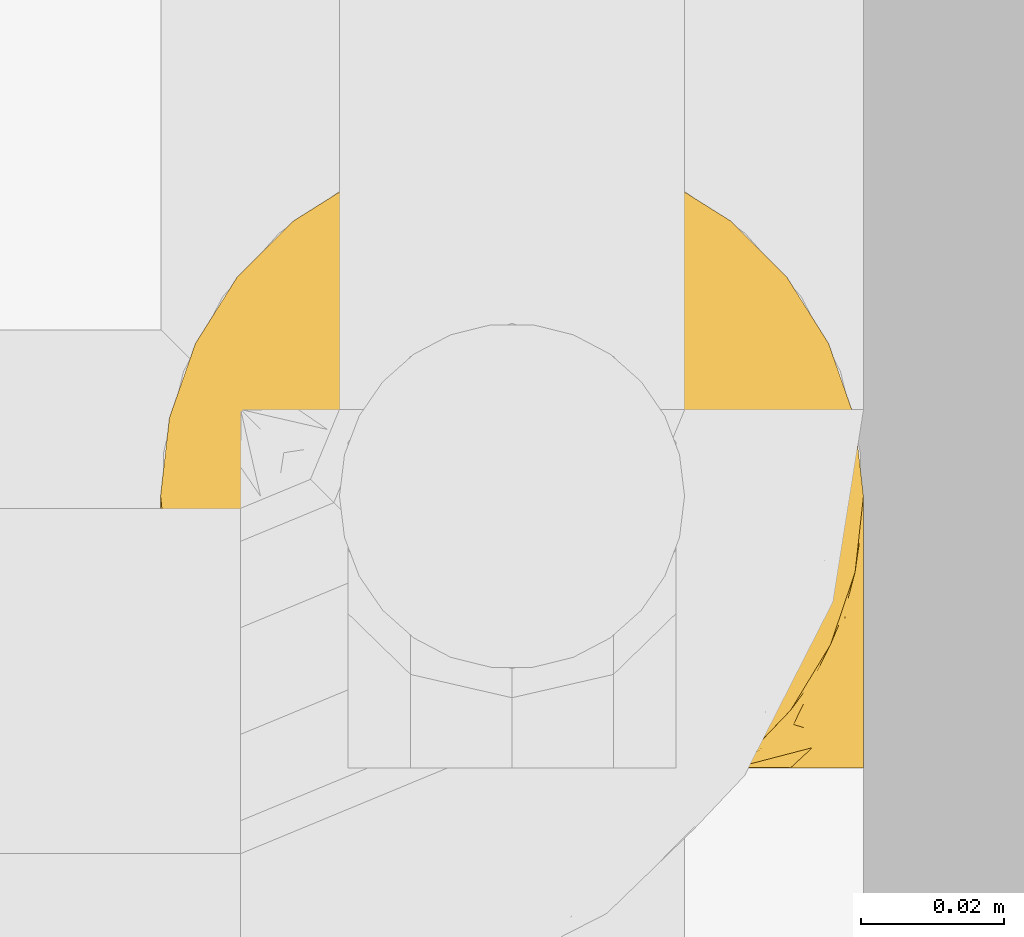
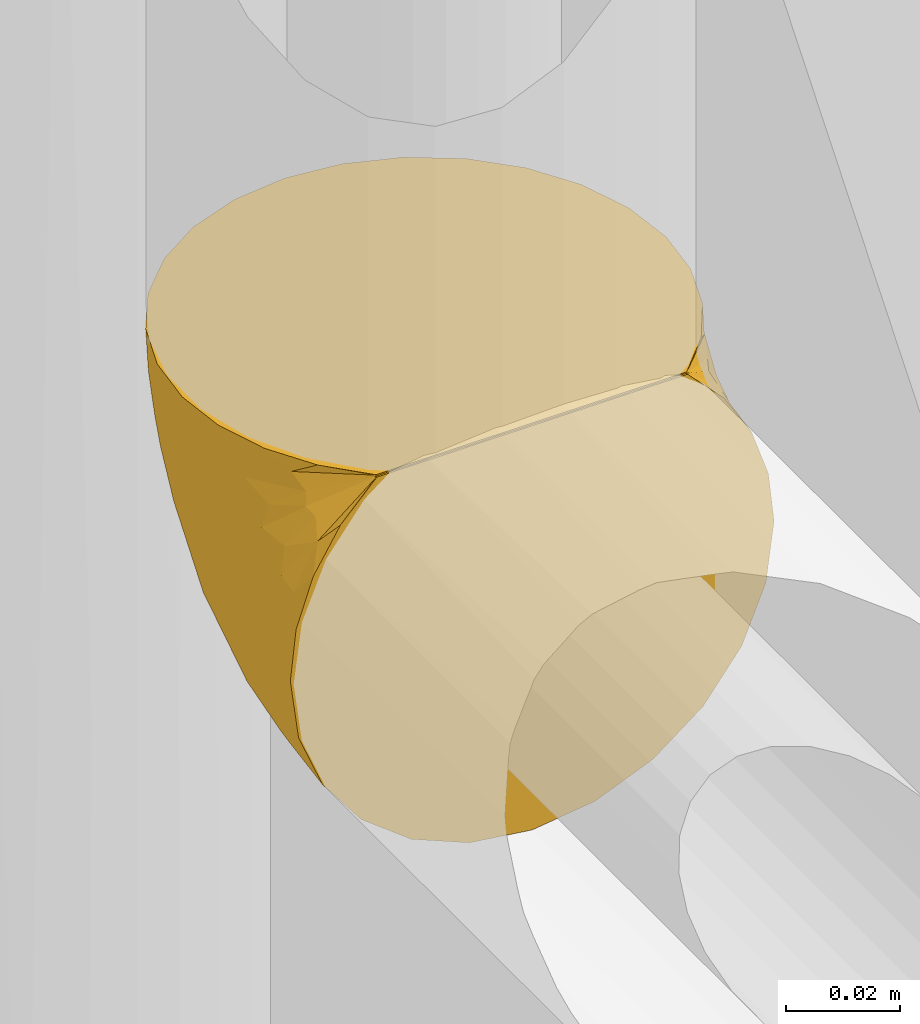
# One storey, part 63 of 94: 1 covering.
"""IFC2X3 building model written with IfcOpenShell, lengths in millimetres."""

from ifc_helpers import new_model, entity, si_unit, converted_unit, derived_unit, direction, frame, origin, place, context, subcontext, project, spatial, faceted_brep, material, element, save


model = new_model("IFC2X3")

# Units and contexts
model_context = context("Model", 3, precision=0.01, world=origin(), true_north=direction((6.123031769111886e-17, 1.0)))
body_context = subcontext(model_context, "Body", "Model", "MODEL_VIEW")
ifc_project = project(units=[si_unit("LENGTHUNIT", "METRE", prefix="MILLI"), si_unit("AREAUNIT", "SQUARE_METRE"), si_unit("VOLUMEUNIT", "CUBIC_METRE"), converted_unit("PLANEANGLEUNIT", "DEGREE", entity("IfcRatioMeasure", 0.017453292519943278), si_unit("PLANEANGLEUNIT", "RADIAN"), dimensions=[0, 0, 0, 0, 0, 0, 0]), si_unit("MASSUNIT", "GRAM", prefix="KILO"), derived_unit("MASSDENSITYUNIT", [(si_unit("MASSUNIT", "GRAM", prefix="KILO"), 1), (si_unit("LENGTHUNIT", "METRE"), -3)]), derived_unit("IONCONCENTRATIONUNIT", [(si_unit("MASSUNIT", "GRAM", prefix="KILO"), 1), (si_unit("LENGTHUNIT", "METRE"), -3)]), derived_unit("MOMENTOFINERTIAUNIT", [(si_unit("LENGTHUNIT", "METRE"), 4)]), si_unit("TIMEUNIT", "SECOND"), si_unit("FREQUENCYUNIT", "HERTZ"), si_unit("THERMODYNAMICTEMPERATUREUNIT", "DEGREE_CELSIUS"), derived_unit("THERMALTRANSMITTANCEUNIT", [(si_unit("MASSUNIT", "GRAM", prefix="KILO"), 1), (si_unit("THERMODYNAMICTEMPERATUREUNIT", "KELVIN"), -1), (si_unit("TIMEUNIT", "SECOND"), -3)]), derived_unit("THERMALCONDUCTANCEUNIT", [(si_unit("MASSUNIT", "GRAM", prefix="KILO"), 1), (si_unit("THERMODYNAMICTEMPERATUREUNIT", "KELVIN"), -1), (si_unit("TIMEUNIT", "SECOND"), -3), (si_unit("LENGTHUNIT", "METRE"), 1)]), derived_unit("VOLUMETRICFLOWRATEUNIT", [(si_unit("LENGTHUNIT", "METRE"), 3), (si_unit("TIMEUNIT", "SECOND"), -1)]), derived_unit("MASSFLOWRATEUNIT", [(si_unit("MASSUNIT", "GRAM", prefix="KILO"), 1), (si_unit("TIMEUNIT", "SECOND"), -1)]), derived_unit("ROTATIONALFREQUENCYUNIT", [(si_unit("TIMEUNIT", "SECOND"), -1)]), si_unit("ELECTRICCURRENTUNIT", "AMPERE"), si_unit("ELECTRICVOLTAGEUNIT", "VOLT"), si_unit("POWERUNIT", "WATT"), si_unit("FORCEUNIT", "NEWTON", prefix="KILO"), si_unit("ILLUMINANCEUNIT", "LUX"), si_unit("LUMINOUSFLUXUNIT", "LUMEN"), si_unit("LUMINOUSINTENSITYUNIT", "CANDELA"), derived_unit("USERDEFINED", [(si_unit("MASSUNIT", "GRAM", prefix="KILO"), -1), (si_unit("LENGTHUNIT", "METRE"), -2), (si_unit("TIMEUNIT", "SECOND"), 3), (si_unit("LUMINOUSFLUXUNIT", "LUMEN"), 1)]), derived_unit("USERDEFINED", [(si_unit("MASSUNIT", "GRAM", prefix="KILO"), 1), (si_unit("TIMEUNIT", "SECOND"), -3), (si_unit("LENGTHUNIT", "METRE"), 3), (si_unit("ELECTRICCURRENTUNIT", "AMPERE"), -2)]), derived_unit("SOUNDPOWERUNIT", [(si_unit("MASSUNIT", "GRAM", prefix="KILO"), 1), (si_unit("TIMEUNIT", "SECOND"), -3), (si_unit("LENGTHUNIT", "METRE"), 2)]), derived_unit("SOUNDPRESSUREUNIT", [(si_unit("MASSUNIT", "GRAM", prefix="KILO"), 1), (si_unit("LENGTHUNIT", "METRE"), -1), (si_unit("TIMEUNIT", "SECOND"), -2)]), derived_unit("LINEARVELOCITYUNIT", [(si_unit("LENGTHUNIT", "METRE"), 1), (si_unit("TIMEUNIT", "SECOND"), -1)]), si_unit("PRESSUREUNIT", "PASCAL"), derived_unit("USERDEFINED", [(si_unit("MASSUNIT", "GRAM", prefix="KILO"), 1), (si_unit("LENGTHUNIT", "METRE"), -2), (si_unit("TIMEUNIT", "SECOND"), -2)]), derived_unit("LINEARFORCEUNIT", [(si_unit("MASSUNIT", "GRAM", prefix="KILO"), 1), (si_unit("TIMEUNIT", "SECOND"), -2)]), derived_unit("PLANARFORCEUNIT", [(si_unit("MASSUNIT", "GRAM", prefix="KILO"), 1), (si_unit("LENGTHUNIT", "METRE"), -1), (si_unit("TIMEUNIT", "SECOND"), -2)]), derived_unit("SPECIFICHEATCAPACITYUNIT", [(si_unit("THERMODYNAMICTEMPERATUREUNIT", "KELVIN"), -1), (si_unit("LENGTHUNIT", "METRE"), 2), (si_unit("TIMEUNIT", "SECOND"), -2)]), derived_unit("HEATINGVALUEUNIT", [(si_unit("LENGTHUNIT", "METRE"), 2), (si_unit("TIMEUNIT", "SECOND"), -2)]), derived_unit("VAPORPERMEABILITYUNIT", [(si_unit("LENGTHUNIT", "METRE"), -1), (si_unit("TIMEUNIT", "SECOND"), 1)]), derived_unit("DYNAMICVISCOSITYUNIT", [(si_unit("MASSUNIT", "GRAM", prefix="KILO"), 1), (si_unit("TIMEUNIT", "SECOND"), -1), (si_unit("LENGTHUNIT", "METRE"), -1)]), derived_unit("THERMALEXPANSIONCOEFFICIENTUNIT", [(si_unit("THERMODYNAMICTEMPERATUREUNIT", "KELVIN"), -1)]), derived_unit("MODULUSOFELASTICITYUNIT", [(si_unit("MASSUNIT", "GRAM", prefix="KILO"), 1), (si_unit("LENGTHUNIT", "METRE"), -1), (si_unit("TIMEUNIT", "SECOND"), -2)]), derived_unit("ISOTHERMALMOISTURECAPACITYUNIT", [(si_unit("LENGTHUNIT", "METRE"), 3), (si_unit("MASSUNIT", "GRAM", prefix="KILO"), -1)]), derived_unit("MOISTUREDIFFUSIVITYUNIT", [(si_unit("TIMEUNIT", "SECOND"), -1), (si_unit("LENGTHUNIT", "METRE"), 2)])], contexts=[model_context])

# Site, building, storey
site_placement = place(None, origin())
site = spatial("IfcSite", under=ifc_project, at=site_placement, Name="Default", CompositionType="ELEMENT")
building_placement = place(site_placement, origin())
building = spatial("IfcBuilding", under=site, at=building_placement, CompositionType="ELEMENT")
storey_placement = place(building_placement, origin())
storey = spatial("IfcBuildingStorey", under=building, at=storey_placement, Name="Niveau 0", CompositionType="ELEMENT", Elevation=0.0)

# Covering
ifc_material = material(Name="Isolation - Laine minérale")
covering_placement = place(storey_placement, frame((-5839.649974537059, 9837.250352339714, 1313.154727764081)))
element("IfcCovering", 1, at=covering_placement, inside=storey, material=ifc_material, Name="Isolation des canalisations:Laine minérale", ObjectType="Isolation des canalisations:Laine minérale", PredefinedType="INSULATION", context=body_context, shape_type="Brep", body=[
    faceted_brep([(95.02415814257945, 60.928409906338, 88.74527223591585), (89.1663101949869, 70.24729243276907, 88.74527223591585), (81.38263886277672, 78.02799613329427, 88.74527223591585), (72.06354573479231, 83.88131648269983, 88.74527223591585), (61.67593083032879, 87.51440414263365, 88.74527223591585), (50.74527223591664, 88.74527223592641, 88.74527223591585), (39.802903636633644, 87.51173151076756, 88.74527223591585), (29.412134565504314, 83.87415814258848, 88.74527223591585), (20.093252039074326, 78.0163101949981, 88.74527223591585), (12.312548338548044, 70.23263886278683, 88.74527223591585), (6.459227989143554, 60.91354573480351, 88.74527223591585), (2.8261403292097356, 50.52593083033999, 88.74527223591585), (1.5952722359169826, 39.59527223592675, 88.74527223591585), (2.765001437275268, 28.936186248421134, 88.74527223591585), (6.216868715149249, 18.787971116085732, 88.74527223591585), (11.785042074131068, 9.631578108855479, 88.74527223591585), (19.19437336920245, 1.908891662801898, 88.74527223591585), (21.638642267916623, 1.908891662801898, 88.74527223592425), (23.415694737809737, 1.908891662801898, 88.74527223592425), (25.192747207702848, 1.908891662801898, 88.74527223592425), (26.69234066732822, 1.908891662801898, 88.74527223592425), (28.191934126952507, 1.908891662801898, 88.74527223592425), (31.19112104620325, 1.908891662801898, 88.74527223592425), (34.19030796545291, 1.908891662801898, 88.74527223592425), (37.18949488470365, 1.908891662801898, 88.74527223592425), (40.18868180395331, 1.908891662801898, 88.74527223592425), (41.688275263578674, 1.908891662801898, 88.74527223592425), (43.18786872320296, 1.908891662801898, 88.74527223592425), (45.63213762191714, 1.908891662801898, 88.74527223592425), (48.07640652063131, 1.908891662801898, 88.74527223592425), (50.52067541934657, 1.908891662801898, 88.74527223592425), (52.96494431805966, 1.908891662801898, 88.74527223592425), (55.40921321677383, 1.908891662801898, 88.74527223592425), (57.853482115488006, 1.908891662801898, 88.74527223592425), (60.297751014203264, 1.908891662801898, 88.74527223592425), (62.742019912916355, 1.908891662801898, 88.74527223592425), (65.18628881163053, 1.908891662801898, 88.74527223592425), (67.6305577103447, 1.908891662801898, 88.74527223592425), (70.07482660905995, 1.908891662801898, 88.74527223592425), (72.51909550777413, 1.908891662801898, 88.74527223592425), (74.96336440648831, 1.908891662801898, 88.74527223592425), (77.40763330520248, 1.908891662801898, 88.74527223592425), (79.85190220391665, 1.908891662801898, 88.74527223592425), (82.29617110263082, 1.908891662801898, 88.74527223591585), (89.71827412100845, 9.648191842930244, 88.74527223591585), (95.2836857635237, 18.809406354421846, 88.74527223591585), (98.73008326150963, 28.95664399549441, 88.74527223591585), (99.8952722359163, 39.59527223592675, 88.74527223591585), (98.66173151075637, 50.53764083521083, 88.74527223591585), (11.777056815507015, 1.5952722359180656, 80.69858068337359), (6.211862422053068, 1.5952722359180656, 71.54185633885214), (2.763298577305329, 1.5952722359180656, 61.39669016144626), (1.5952722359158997, 1.5952722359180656, 50.74527223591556), (3.2700178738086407, 1.5952722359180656, 38.02431616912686), (8.180123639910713, 1.5952722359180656, 26.17027223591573), (15.990973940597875, 1.5952722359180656, 15.990973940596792), (26.17027223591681, 1.5952722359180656, 8.180123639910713), (38.0243161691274, 1.5952722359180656, 3.2700178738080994), (50.74527223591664, 1.5952722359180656, 1.5952722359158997), (63.46622830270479, 1.5952722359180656, 3.2700178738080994), (75.32027223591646, 1.5952722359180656, 8.180123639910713), (85.4995705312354, 1.5952722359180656, 15.990973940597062), (93.31042083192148, 1.5952722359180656, 26.17027223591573), (98.22052659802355, 1.5952722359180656, 38.02431616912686), (99.8952722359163, 1.5952722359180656, 50.74527223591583), (98.72724589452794, 1.5952722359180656, 61.39669016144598), (95.2786820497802, 1.5952722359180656, 71.54185633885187), (89.71348765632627, 1.5952722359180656, 80.69858068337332), (82.29617110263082, 1.5952722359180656, 88.43165280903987), (79.85190220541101, 1.5952722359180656, 88.43165280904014), (78.35230874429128, 1.5952722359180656, 88.43165280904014), (76.3803775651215, 1.5952722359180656, 88.43165280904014), (74.40844638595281, 1.5952722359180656, 88.43165280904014), (72.43651520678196, 1.5952722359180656, 88.43165280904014), (70.46458402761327, 1.5952722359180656, 88.43165280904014), (68.4926528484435, 1.5952722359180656, 88.43165280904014), (66.52072166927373, 1.5952722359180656, 88.43165280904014), (64.54879049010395, 1.5952722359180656, 88.43165280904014), (62.57685931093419, 1.5952722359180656, 88.43165280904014), (60.60492813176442, 1.5952722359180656, 88.43165280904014), (58.632996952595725, 1.5952722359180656, 88.43165280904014), (56.66106577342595, 1.5952722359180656, 88.43165280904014), (54.6891345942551, 1.5952722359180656, 88.43165280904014), (52.71720341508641, 1.5952722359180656, 88.43165280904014), (50.74527223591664, 1.5952722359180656, 88.43165280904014), (48.773341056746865, 1.5952722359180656, 88.43165280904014), (46.80140987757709, 1.5952722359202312, 88.43165280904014), (44.82947869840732, 1.5952722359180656, 88.43165280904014), (42.85754751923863, 1.5952722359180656, 88.43165280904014), (40.88561634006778, 1.5952722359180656, 88.43165280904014), (38.913685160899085, 1.5952722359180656, 88.43165280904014), (36.94175398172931, 1.5952722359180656, 88.43165280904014), (34.96982280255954, 1.5952722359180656, 88.43165280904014), (31.970635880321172, 1.5952722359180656, 88.43165280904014), (28.971448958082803, 1.5952722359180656, 88.43165280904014), (26.5271800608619, 1.5952722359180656, 88.43165280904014), (24.082911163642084, 1.5952722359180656, 88.43165280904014), (21.638642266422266, 1.5952722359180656, 88.43165280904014), (19.19437336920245, 1.5952722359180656, 88.43165280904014), (53.7533397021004, 1.8096432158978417, 88.51635690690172), (51.832765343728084, 1.818436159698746, 88.52492022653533), (61.47290163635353, 1.8193226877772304, 88.52582169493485), (63.56282540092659, 1.8127644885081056, 88.51932032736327), (48.00102702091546, 1.7996191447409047, 88.50736577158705), (77.2499939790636, 1.8054799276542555, 88.51252801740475), (80.6991383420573, 1.8492387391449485, 88.5612663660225), (42.43807145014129, 1.8224415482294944, 88.52905186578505), (22.860776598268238, 1.8170346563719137, 88.52350980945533), (24.700216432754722, 1.815062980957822, 88.52155551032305), (71.37008955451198, 1.824011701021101, 88.53071361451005), (73.40383885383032, 1.8138012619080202, 88.52032288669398), (44.41000264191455, 1.8358544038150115, 88.54408236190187), (37.92771907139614, 1.8108976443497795, 88.51753811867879), (39.81308540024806, 1.8073683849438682, 88.5142476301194), (35.95578792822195, 1.8246911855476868, 88.53144031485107), (49.75930651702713, 1.8114022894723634, 88.51801699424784), (21.027574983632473, 1.814626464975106, 88.52112749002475), (55.67510065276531, 1.803895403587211, 88.51110665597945), (67.50668767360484, 1.803065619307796, 88.51037001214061), (65.61454699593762, 1.8078125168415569, 88.51465616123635), (34.10458092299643, 1.806281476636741, 88.51325446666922), (57.55217518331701, 1.8068444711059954, 88.51376773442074), (79.10210557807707, 1.8170346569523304, 88.52350981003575), (75.39441218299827, 1.8056127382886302, 88.51264803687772), (82.29617110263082, 1.8170346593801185, 88.52350981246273), (82.29617110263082, 1.845664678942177, 88.59262879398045), (82.29617110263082, 1.874294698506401, 88.66174777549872), (19.19437336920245, 1.8170346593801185, 88.52350981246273), (19.19437336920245, 1.7479156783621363, 88.49487979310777), (19.19437336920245, 1.6787966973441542, 88.4662497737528), (32.212157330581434, 1.8305380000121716, 88.53789054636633), (69.43559223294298, 1.8101196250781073, 88.51680397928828), (46.24828797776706, 1.818076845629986, 88.52455691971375), (59.49061335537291, 1.8158402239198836, 88.52232177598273), (29.419252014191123, 1.8347511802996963, 88.54277043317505), (27.44213716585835, 1.8131030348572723, 88.51964668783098), (82.29617110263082, 1.6787966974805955, 88.46624977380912), (82.29617110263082, 1.7479156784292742, 88.49487979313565), (19.19437336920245, 1.8742946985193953, 88.66174777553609), (19.19437336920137, 1.8456646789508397, 88.59262879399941), (4.210283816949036, 5.119742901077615, 66.84532494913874), (8.74417984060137, 4.404433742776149, 76.59278810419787), (4.210283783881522, 9.262466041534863, 67.93076460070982), (9.955583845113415, 7.20765205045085, 79.77802179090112), (1.5952722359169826, 11.095272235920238, 53.290789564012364), (1.5952722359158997, 9.051642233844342, 52.74320055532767), (1.5952722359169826, 34.504237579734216, 69.74527223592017), (2.935497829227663, 23.945014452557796, 74.32039473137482), (4.213452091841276, 22.400140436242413, 81.07886680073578), (1.5952722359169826, 20.59527223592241, 55.83630689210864), (9.405305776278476, 9.666760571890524, 80.67264697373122), (9.963487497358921, 10.551623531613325, 83.13763204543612), (2.9356418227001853, 16.01945088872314, 66.39579772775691), (4.213452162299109, 23.485838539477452, 85.22115378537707), (8.750654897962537, 13.737180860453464, 85.93765126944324), (5.690627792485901, 10.69142511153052, 72.79903813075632), (1.5952722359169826, 37.59734395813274, 81.28890239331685), (1.5952722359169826, 37.04975490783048, 79.24527223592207), (4.482619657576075, 16.728859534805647, 73.61168502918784), (1.5952722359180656, 27.549754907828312, 62.79078956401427), (5.766057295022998, 16.460659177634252, 78.26898539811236), (2.6117250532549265, 15.0114077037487, 42.71659351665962), (2.6575317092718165, 24.429802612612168, 46.33910334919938), (11.131578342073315, 36.49293031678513, 31.440845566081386), (20.824647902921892, 31.204032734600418, 17.672829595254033), (11.751954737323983, 19.174422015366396, 23.1389879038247), (5.33659242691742, 23.335091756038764, 36.26070217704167), (5.33659286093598, 11.460031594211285, 32.79943692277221), (50.74527223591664, 52.820756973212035, 18.23944117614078), (50.74527223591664, 28.526103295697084, 5.860696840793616), (40.3397395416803, 36.46534309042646, 10.09253095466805), (9.12424327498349, 64.55560047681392, 76.48910815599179), (4.35104531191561, 54.09636170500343, 75.17525932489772), (32.6469542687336, 60.777662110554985, 29.562886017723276), (23.76890934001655, 59.56986252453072, 34.954708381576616), (35.61531809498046, 75.04832177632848, 46.44316922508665), (41.69613385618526, 19.026686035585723, 4.214063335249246), (30.50981773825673, 43.099517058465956, 17.108860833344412), (21.748430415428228, 46.83665143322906, 25.593158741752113), (20.824647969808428, 15.050691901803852, 12.936813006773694), (31.9363827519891, 23.237814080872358, 8.193374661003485), (15.984346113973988, 53.24134352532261, 37.51142897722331), (9.50970334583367, 45.82536759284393, 41.46157905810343), (11.405769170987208, 56.63576814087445, 49.733323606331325), (3.723532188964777, 46.28884977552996, 61.57059128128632), (9.124242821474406, 60.29646320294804, 62.89209880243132), (15.984347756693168, 72.02820629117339, 70.54017915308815), (50.74527223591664, 84.47984763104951, 61.81444117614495), (34.505351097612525, 83.29913826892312, 67.6249225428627), (18.53593481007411, 64.72607481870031, 48.02305876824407), (24.58819413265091, 74.45362859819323, 56.65671676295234), (24.58819389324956, 79.74013519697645, 73.53357104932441), (39.07585882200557, 51.83676030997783, 19.26196392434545), (42.346184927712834, 64.99536385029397, 30.008052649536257), (2.5632520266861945, 37.17704034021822, 56.96722300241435), (50.74527223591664, 72.10110329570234, 37.51978749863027), (4.72244931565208, 37.64584570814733, 46.87511479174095), (69.55416102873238, 32.16465220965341, 11.140369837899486), (59.58510784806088, 18.639631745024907, 4.095656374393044), (59.865425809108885, 35.76621119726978, 9.502474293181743), (66.13789702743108, 47.842493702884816, 17.812384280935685), (69.55416221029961, 15.278189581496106, 6.46656563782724), (85.49332197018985, 65.81540325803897, 54.54188370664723), (78.98858976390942, 64.55420181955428, 42.32008170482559), (76.8874308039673, 74.46231326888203, 56.65317707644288), (85.49294527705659, 53.25075234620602, 37.50209525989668), (78.28666517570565, 54.6271823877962, 30.584563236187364), (97.13479117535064, 54.1090356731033, 75.17052823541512), (98.9530358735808, 19.80250294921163, 44.78912737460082), (99.8952722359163, 20.59527223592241, 55.83630689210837), (99.8952722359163, 11.095272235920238, 53.290789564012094), (66.97173870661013, 83.30424504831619, 67.62586672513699), (80.66589652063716, 21.099683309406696, 14.263403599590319), (92.35692696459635, 60.310032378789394, 62.885892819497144), (92.35692651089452, 64.57029925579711, 76.48653547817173), (89.7385894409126, 13.46514039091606, 21.869885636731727), (96.15395178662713, 16.335810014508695, 33.88211097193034), (79.62483877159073, 41.93007422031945, 22.251999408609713), (89.73859028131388, 27.715013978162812, 26.04782376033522), (59.50815922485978, 59.11976772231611, 24.32928808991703), (68.83452868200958, 60.78019907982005, 29.560349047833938), (99.01263503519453, 10.513874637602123, 42.32143211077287), (76.88743104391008, 79.74926997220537, 73.53143463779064), (65.85652255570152, 75.0532971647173, 46.439690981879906), (85.49294363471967, 72.04103767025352, 70.53686254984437), (97.76388503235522, 46.290673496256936, 61.55381762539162), (99.8952722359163, 34.504237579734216, 69.7452722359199), (98.78930951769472, 36.105181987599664, 54.85547791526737), (99.8952722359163, 27.549754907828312, 62.790789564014), (99.8952722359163, 37.59734395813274, 81.28890239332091), (99.8952722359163, 37.04975490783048, 79.24527223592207), (91.50386042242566, 41.92842909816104, 37.17763207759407), (96.4268312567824, 26.197497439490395, 38.2874599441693), (93.14991945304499, 50.23414181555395, 48.939507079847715), (99.08337182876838, 27.449810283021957, 49.619322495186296), (86.0910755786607, 42.66776613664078, 29.42376899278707), (96.67816905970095, 34.950986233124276, 44.39993285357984), (97.2802602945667, 9.262466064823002, 67.93076584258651), (95.72662397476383, 12.074879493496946, 73.87629022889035), (98.5546584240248, 16.019815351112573, 66.3972519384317), (97.28026045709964, 5.1197430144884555, 66.84532555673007), (92.74636428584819, 4.404433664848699, 76.59278866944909), (91.53641117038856, 7.207972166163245, 79.7756765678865), (90.11275627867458, 7.658564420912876, 82.68391989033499), (97.00519514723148, 16.723480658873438, 73.61706313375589), (91.54965419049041, 10.582773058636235, 83.1240265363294), (97.28427045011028, 22.422090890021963, 81.0773593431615), (97.28427059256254, 23.50719690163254, 85.22095110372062), (92.75147496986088, 13.756054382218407, 85.9346659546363), (98.55441347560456, 23.942836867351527, 74.3219171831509), (95.80583125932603, 17.5567184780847, 79.64839749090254)], [[[0, 1, 2, 3, 4, 5, 6, 7, 8, 9, 10, 11, 12, 13, 14, 15, 16, 17, 18, 19, 20, 21, 22, 23, 24, 25, 26, 27, 28, 29, 30, 31, 32, 33, 34, 35, 36, 37, 38, 39, 40, 41, 42, 43, 44, 45, 46, 47, 48]], [[49, 50, 51, 52, 53, 54, 55, 56, 57, 58, 59, 60, 61, 62, 63, 64, 65, 66, 67, 68, 69, 70, 71, 72, 73, 74, 75, 76, 77, 78, 79, 80, 81, 82, 83, 84, 85, 86, 87, 88, 89, 90, 91, 92, 93, 94, 95, 96, 97, 98]], [[99, 100, 83]], [[101, 102, 35]], [[85, 103, 86]], [[71, 70, 104]], [[105, 69, 68]], [[27, 26, 106]], [[18, 107, 108]], [[109, 73, 110]], [[28, 27, 111]], [[25, 112, 113]], [[108, 96, 95]], [[114, 92, 91]], [[103, 85, 115]], [[96, 107, 97]], [[107, 17, 116]], [[78, 102, 101]], [[99, 117, 32]], [[76, 118, 119]], [[120, 92, 114]], [[112, 90, 113]], [[88, 111, 106]], [[40, 39, 110]], [[107, 96, 108]], [[32, 117, 121]], [[91, 90, 112]], [[37, 119, 118]], [[84, 115, 85]], [[69, 105, 122]], [[71, 123, 72]], [[105, 124, 125, 126, 43]], [[116, 17, 16]], [[122, 70, 69]], [[41, 122, 42]], [[116, 127, 128, 129, 98]], [[110, 123, 40]], [[42, 122, 105]], [[120, 23, 130]], [[24, 114, 112]], [[114, 24, 23]], [[104, 123, 71]], [[91, 112, 114]], [[104, 122, 41]], [[24, 112, 25]], [[110, 72, 123]], [[36, 119, 37]], [[40, 123, 41]], [[74, 73, 109]], [[131, 75, 74]], [[118, 131, 37]], [[109, 110, 39]], [[109, 39, 38]], [[73, 72, 110]], [[123, 104, 41]], [[122, 104, 70]], [[26, 25, 113]], [[113, 89, 106]], [[87, 86, 132]], [[113, 106, 26]], [[76, 75, 118]], [[132, 111, 87]], [[106, 111, 27]], [[132, 28, 111]], [[87, 111, 88]], [[88, 106, 89]], [[113, 90, 89]], [[131, 118, 75]], [[38, 37, 131]], [[119, 36, 102]], [[131, 109, 38]], [[109, 131, 74]], [[78, 77, 102]], [[77, 119, 102]], [[77, 76, 119]], [[121, 80, 133]], [[36, 35, 102]], [[33, 121, 133]], [[79, 78, 101]], [[34, 101, 35]], [[132, 29, 28]], [[80, 79, 133]], [[29, 103, 115]], [[30, 29, 115]], [[86, 103, 132]], [[100, 115, 84]], [[31, 30, 100]], [[115, 100, 30]], [[32, 31, 99]], [[117, 81, 121]], [[100, 84, 83]], [[99, 82, 117]], [[81, 117, 82]], [[33, 32, 121]], [[82, 99, 83]], [[100, 99, 31]], [[34, 33, 133]], [[121, 81, 80]], [[133, 101, 34]], [[101, 133, 79]], [[134, 94, 93]], [[23, 120, 114]], [[132, 103, 29]], [[120, 93, 92]], [[93, 120, 130]], [[97, 107, 116]], [[108, 20, 19, 18]], [[21, 135, 134]], [[20, 135, 21]], [[134, 135, 94]], [[108, 95, 135]], [[108, 135, 20]], [[135, 95, 94]], [[134, 22, 21]], [[130, 22, 134]], [[42, 105, 43]], [[105, 68, 136, 137, 124]], [[97, 116, 98]], [[116, 16, 138, 139, 127]], [[18, 17, 107]], [[93, 130, 134]], [[22, 130, 23]], [[140, 141, 142]], [[143, 129, 128, 127]], [[51, 144, 145, 52]], [[146, 147, 148]], [[142, 149, 144]], [[150, 127, 151]], [[50, 140, 51]], [[142, 152, 149]], [[51, 140, 144]], [[129, 143, 141]], [[14, 13, 153]], [[148, 151, 154]], [[155, 141, 143]], [[151, 138, 154]], [[14, 153, 154]], [[16, 15, 138]], [[13, 12, 156, 157]], [[152, 155, 158]], [[159, 158, 147]], [[157, 148, 153]], [[14, 154, 15]], [[49, 98, 129]], [[49, 129, 141]], [[141, 50, 49]], [[160, 148, 147]], [[146, 148, 157]], [[138, 15, 154]], [[150, 158, 155]], [[151, 127, 139, 138]], [[141, 140, 50]], [[144, 140, 142]], [[157, 153, 13]], [[154, 153, 148]], [[149, 152, 159]], [[160, 147, 158]], [[147, 146, 159]], [[155, 152, 142]], [[159, 152, 158]], [[127, 150, 143]], [[160, 150, 151]], [[150, 160, 158]], [[148, 160, 151]], [[141, 155, 142]], [[155, 143, 150]], [[156, 12, 11]], [[161, 149, 162]], [[163, 164, 165]], [[166, 167, 161]], [[168, 169, 170]], [[54, 165, 55]], [[171, 172, 10]], [[173, 174, 175]], [[57, 176, 58]], [[173, 177, 178]], [[179, 56, 55]], [[54, 167, 165]], [[170, 180, 177]], [[56, 179, 180]], [[167, 54, 53]], [[181, 182, 183]], [[184, 146, 172]], [[172, 185, 184]], [[186, 185, 171]], [[186, 9, 8]], [[172, 146, 157, 156]], [[172, 11, 10]], [[173, 178, 174]], [[6, 187, 188]], [[189, 186, 190]], [[191, 186, 8]], [[175, 190, 188]], [[168, 192, 193]], [[189, 190, 174]], [[56, 180, 57]], [[8, 7, 191]], [[188, 7, 6]], [[6, 5, 187]], [[190, 191, 188]], [[159, 194, 162]], [[175, 187, 195]], [[177, 180, 164]], [[10, 9, 171]], [[176, 180, 170]], [[156, 11, 172]], [[163, 165, 166]], [[179, 165, 164]], [[53, 52, 145]], [[185, 189, 183]], [[184, 196, 194]], [[188, 191, 7]], [[186, 191, 190]], [[186, 171, 9]], [[172, 171, 185]], [[187, 175, 188]], [[193, 175, 195]], [[196, 163, 166]], [[163, 181, 178]], [[162, 166, 161]], [[184, 185, 183]], [[178, 177, 164]], [[177, 192, 170]], [[177, 173, 192]], [[176, 170, 169]], [[58, 176, 169]], [[57, 180, 176]], [[193, 192, 173]], [[168, 170, 192]], [[175, 193, 173]], [[168, 193, 195]], [[163, 178, 164]], [[184, 194, 146]], [[178, 181, 174]], [[189, 174, 181]], [[175, 174, 190]], [[183, 189, 181]], [[186, 189, 185]], [[182, 181, 163]], [[183, 182, 184]], [[163, 196, 182]], [[184, 182, 196]], [[165, 179, 55]], [[180, 179, 164]], [[161, 53, 145]], [[165, 167, 166]], [[53, 161, 167]], [[161, 145, 144, 149]], [[159, 162, 149]], [[196, 166, 162]], [[162, 194, 196]], [[146, 194, 159]], [[197, 198, 199]], [[58, 169, 198]], [[197, 199, 200]], [[198, 197, 201]], [[202, 203, 204]], [[60, 59, 201]], [[205, 206, 203]], [[0, 48, 207]], [[208, 209, 210]], [[187, 4, 211]], [[201, 212, 60]], [[213, 214, 207]], [[61, 215, 62]], [[62, 215, 216]], [[3, 211, 4]], [[217, 218, 212]], [[219, 220, 200]], [[216, 208, 221]], [[3, 2, 222]], [[62, 216, 63]], [[61, 60, 212]], [[211, 3, 222]], [[5, 4, 187]], [[217, 197, 200]], [[203, 223, 204]], [[2, 1, 224]], [[225, 213, 207]], [[204, 222, 224]], [[1, 0, 214]], [[204, 224, 202]], [[207, 226, 225]], [[227, 226, 228]], [[223, 211, 204]], [[214, 224, 1]], [[202, 224, 213]], [[48, 47, 229]], [[207, 229, 230, 226]], [[211, 223, 187]], [[218, 231, 232]], [[48, 229, 207]], [[205, 233, 231]], [[233, 213, 225]], [[217, 212, 197]], [[215, 212, 218]], [[228, 234, 227]], [[233, 205, 202]], [[208, 234, 209]], [[63, 221, 64]], [[235, 205, 231]], [[207, 214, 0]], [[224, 214, 213]], [[224, 222, 2]], [[211, 222, 204]], [[219, 223, 220]], [[187, 223, 195]], [[227, 233, 225]], [[234, 228, 209]], [[231, 233, 236]], [[221, 208, 210]], [[232, 208, 216]], [[64, 221, 210]], [[216, 221, 63]], [[233, 202, 213]], [[203, 202, 205]], [[205, 235, 206]], [[223, 203, 220]], [[200, 206, 217]], [[220, 203, 206]], [[232, 231, 236]], [[235, 218, 217]], [[212, 215, 61]], [[216, 215, 218]], [[218, 232, 216]], [[234, 232, 236]], [[232, 234, 208]], [[234, 236, 227]], [[233, 227, 236]], [[226, 227, 225]], [[198, 201, 59]], [[212, 201, 197]], [[58, 198, 59]], [[198, 169, 199]], [[169, 168, 199]], [[219, 200, 199]], [[219, 199, 168]], [[200, 220, 206]], [[168, 195, 219]], [[223, 219, 195]], [[218, 235, 231]], [[206, 235, 217]], [[65, 64, 210]], [[209, 237, 210]], [[238, 237, 239]], [[66, 240, 241]], [[242, 136, 241]], [[243, 137, 242]], [[243, 244, 245]], [[65, 240, 66]], [[136, 68, 67]], [[136, 67, 241]], [[246, 226, 230]], [[66, 241, 67]], [[210, 237, 240]], [[45, 247, 46]], [[209, 239, 237]], [[246, 247, 248]], [[46, 247, 230]], [[249, 250, 244]], [[239, 228, 244]], [[226, 246, 249]], [[250, 248, 245]], [[44, 43, 126]], [[237, 242, 241]], [[248, 45, 44]], [[44, 126, 248]], [[46, 230, 229, 47]], [[245, 126, 125]], [[126, 245, 248]], [[243, 124, 137]], [[210, 240, 65]], [[241, 240, 237]], [[248, 247, 45]], [[230, 247, 246]], [[226, 249, 228]], [[238, 239, 244]], [[239, 209, 228]], [[250, 249, 246]], [[228, 249, 244]], [[243, 242, 238]], [[136, 242, 137]], [[124, 243, 125]], [[125, 243, 245]], [[243, 238, 244]], [[237, 238, 242]], [[248, 250, 246]], [[244, 250, 245]]]),
])

save(model, "model.ifc")
